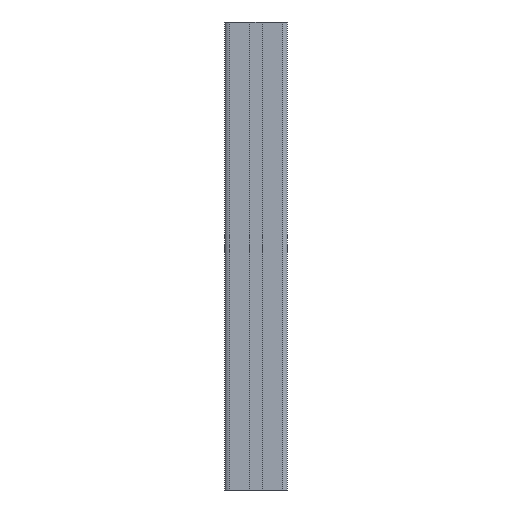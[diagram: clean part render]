
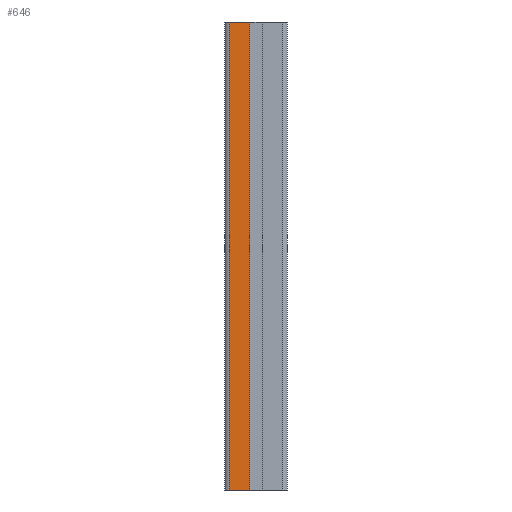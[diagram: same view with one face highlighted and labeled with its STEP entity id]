
A CAD part, front view. The second image highlights one B-rep face of the part: STEP entity #646.
In plain terms, the highlighted planar face has unit normal (0, -1, 0).
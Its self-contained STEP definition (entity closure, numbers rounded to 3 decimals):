
#2 = ORIENTED_EDGE ( 'NONE', *, *, #926, .T. ) ;
#7 = EDGE_LOOP ( 'NONE', ( #175, #221, #955, #2 ) ) ;
#14 = DIRECTION ( 'NONE',  ( 1., 0., 0. ) ) ;
#48 = LINE ( 'NONE', #927, #642 ) ;
#102 = CARTESIAN_POINT ( 'NONE',  ( -17., -8., -150. ) ) ;
#175 = ORIENTED_EDGE ( 'NONE', *, *, #754, .T. ) ;
#180 = FACE_OUTER_BOUND ( 'NONE', #7, .T. ) ;
#191 = LINE ( 'NONE', #102, #572 ) ;
#221 = ORIENTED_EDGE ( 'NONE', *, *, #847, .F. ) ;
#223 = DIRECTION ( 'NONE',  ( 1., 0., 0. ) ) ;
#307 = CARTESIAN_POINT ( 'NONE',  ( -17., -8., 150. ) ) ;
#316 = VERTEX_POINT ( 'NONE', #682 ) ;
#348 = VERTEX_POINT ( 'NONE', #779 ) ;
#389 = VERTEX_POINT ( 'NONE', #911 ) ;
#395 = DIRECTION ( 'NONE',  ( 0., 0., -1. ) ) ;
#404 = LINE ( 'NONE', #307, #622 ) ;
#470 = VERTEX_POINT ( 'NONE', #479 ) ;
#479 = CARTESIAN_POINT ( 'NONE',  ( -4.099, -8., -150. ) ) ;
#500 = CARTESIAN_POINT ( 'NONE',  ( -4.099, -8., 150. ) ) ;
#558 = DIRECTION ( 'NONE',  ( 0., 0., 1. ) ) ;
#572 = VECTOR ( 'NONE', #14, 1000. ) ;
#595 = AXIS2_PLACEMENT_3D ( 'NONE', #778, #669, #558 ) ;
#606 = LINE ( 'NONE', #500, #739 ) ;
#622 = VECTOR ( 'NONE', #223, 1000. ) ;
#642 = VECTOR ( 'NONE', #807, 1000. ) ;
#646 = ADVANCED_FACE ( 'NONE', ( #180 ), #894, .F. ) ;
#669 = DIRECTION ( 'NONE',  ( 0., 1., 0. ) ) ;
#682 = CARTESIAN_POINT ( 'NONE',  ( -17., -8., 150. ) ) ;
#739 = VECTOR ( 'NONE', #395, 1000. ) ;
#754 = EDGE_CURVE ( 'NONE', #348, #470, #191, .T. ) ;
#778 = CARTESIAN_POINT ( 'NONE',  ( -17., -8., 150. ) ) ;
#779 = CARTESIAN_POINT ( 'NONE',  ( -17., -8., -150. ) ) ;
#807 = DIRECTION ( 'NONE',  ( 0., 0., -1. ) ) ;
#847 = EDGE_CURVE ( 'NONE', #389, #470, #606, .T. ) ;
#894 = PLANE ( 'NONE',  #595 ) ;
#911 = CARTESIAN_POINT ( 'NONE',  ( -4.099, -8., 150. ) ) ;
#918 = EDGE_CURVE ( 'NONE', #316, #389, #404, .T. ) ;
#926 = EDGE_CURVE ( 'NONE', #316, #348, #48, .T. ) ;
#927 = CARTESIAN_POINT ( 'NONE',  ( -17., -8., 150. ) ) ;
#955 = ORIENTED_EDGE ( 'NONE', *, *, #918, .F. ) ;
